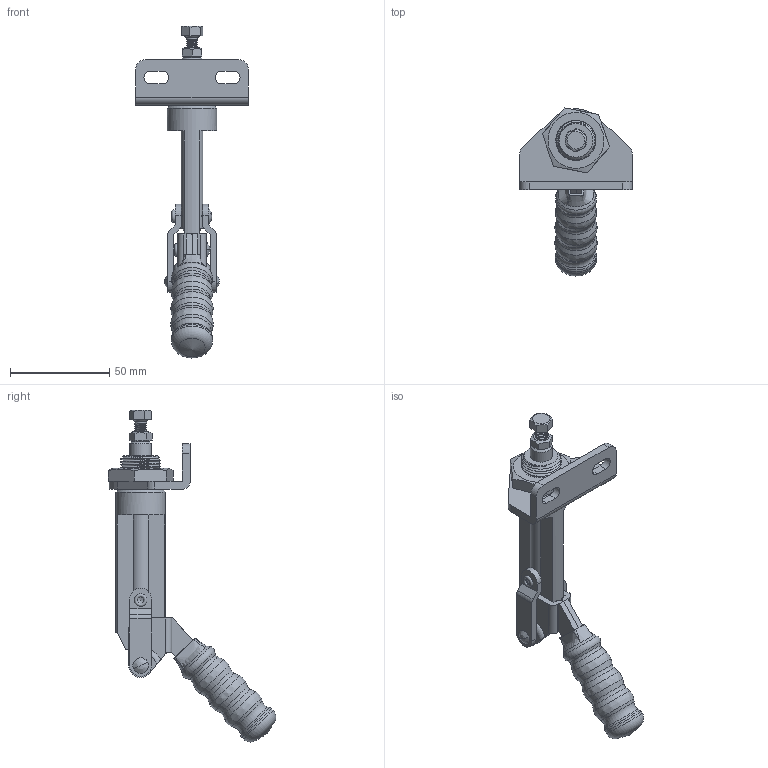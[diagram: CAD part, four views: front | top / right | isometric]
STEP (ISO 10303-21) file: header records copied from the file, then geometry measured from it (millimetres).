
FILE_DESCRIPTION(/* description */ ('STEP AP203'),/* implementation_level */ '2;1');
FILE_NAME(/* name */ 'D:\Vault_2016\Projekty\STRONA\Push-pull clamp\CH-30250\CH-30250_OTWARTY.stp',/* time_stamp */ '2019-01-10T15:22:03+01:00',/* author */ ('user'),/* organization */ ('Î¢ÈíÖÐ¹ú'),/* preprocessor_version */ 'ST-DEVELOPER v17.2',/* originating_system */ 'Autodesk Inventor 2019',/* authorisation */ '');
FILE_SCHEMA (('AUTOMOTIVE_DESIGN { 1 0 10303 214 3 1 1 }'));
Products named in the file (13): CH-30250_OTWARTY; CH-30250-05_Ä¬ÈÏ; CH-30250-02 CREST STALK_Ä¬ÈÏ; M6 Nut_Ä¬ÈÏ; CH-30250-01 BASE_Ä¬ÈÏ; CH-30250-03 HANDLE_Ä¬ÈÏ; CH-30250-10_Ä¬ÈÏ; CH-30250-04 CONNECTING-PLATE_Ä¬ÈÏ; M6X20_Ä¬ÈÏ; CH-30250-07_Ä¬ÈÏ; CH-30250-08_Ä¬ÈÏ; CH-30250-06_Ä¬ÈÏ; CH-30250-09_Ä¬ÈÏ
Assembly tree (14 placements, depth 2):
  CH-30250_OTWARTY
    CH-30250-07_Ä¬ÈÏ  x2
    CH-30250-05_Ä¬ÈÏ
    CH-30250-04 CONNECTING-PLATE_Ä¬ÈÏ  x2
    CH-30250-02 CREST STALK_Ä¬ÈÏ
    M6 Nut_Ä¬ÈÏ
    CH-30250-01 BASE_Ä¬ÈÏ
    CH-30250-03 HANDLE_Ä¬ÈÏ
    CH-30250-10_Ä¬ÈÏ
    M6X20_Ä¬ÈÏ
    CH-30250-08_Ä¬ÈÏ
    CH-30250-06_Ä¬ÈÏ
    CH-30250-09_Ä¬ÈÏ
Bounding box: 57 x 84.65 x 167.6 mm (x, y, z)
Volume: 63021.6 mm3; surface area: 39150 mm2
Topology: 15 solids, 15 shells, 619 faces, 1734 edges, 1158 vertices
Faces by surface type: plane 242, bspline 214, cylinder 111, cone 36, torus 16
Full cylindrical faces by diameter (mm): 0.839 x1, 0.959 x1, 3.27 x1, 3.274 x2, 3.283 x1, 4.8 x19, 5.02 x14, 6 x18, 11 x2, 17 x1, 18.5 x3, 20 x9, 20.847 x1, 25 x1
Entity records: 36472 total; most frequent: CARTESIAN_POINT 22147, ORIENTED_EDGE 3324, DIRECTION 2148, EDGE_CURVE 1662, VERTEX_POINT 1119, LINE 818, VECTOR 818, AXIS2_PLACEMENT_3D 665
